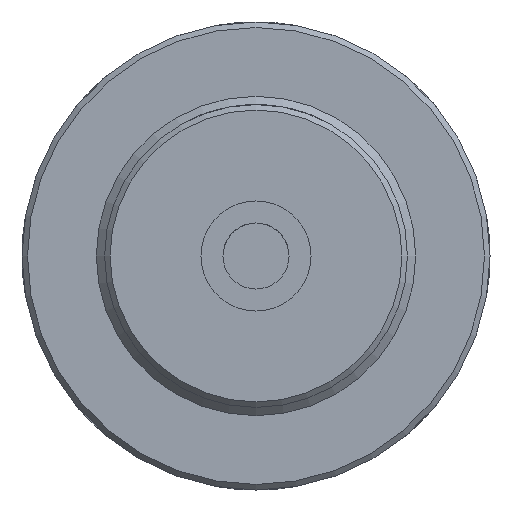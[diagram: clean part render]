
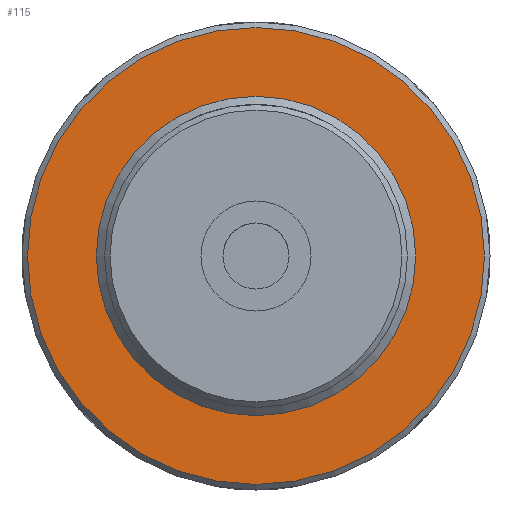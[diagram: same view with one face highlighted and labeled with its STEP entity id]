
A CAD part, left-side view. The second image highlights one B-rep face of the part: STEP entity #115.
In plain terms, the highlighted planar face has unit normal (-1, 0, 0).
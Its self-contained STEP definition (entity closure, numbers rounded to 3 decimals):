
#115 = ADVANCED_FACE( '', ( #247, #248 ), #249, .T. );
#247 = FACE_OUTER_BOUND( '', #382, .T. );
#248 = FACE_BOUND( '', #383, .T. );
#249 = PLANE( '', #384 );
#382 = EDGE_LOOP( '', ( #599 ) );
#383 = EDGE_LOOP( '', ( #600 ) );
#384 = AXIS2_PLACEMENT_3D( '', #601, #602, #603 );
#599 = ORIENTED_EDGE( '', *, *, #642, .T. );
#600 = ORIENTED_EDGE( '', *, *, #614, .F. );
#601 = CARTESIAN_POINT( '', ( 40.5, 0., 29. ) );
#602 = DIRECTION( '', ( -1., 0., 0. ) );
#603 = DIRECTION( '', ( 0., 0., 1. ) );
#614 = EDGE_CURVE( '', #669, #669, #670, .T. );
#642 = EDGE_CURVE( '', #711, #711, #712, .T. );
#669 = VERTEX_POINT( '', #885 );
#670 = CIRCLE( '', #886, 29. );
#711 = VERTEX_POINT( '', #1317 );
#712 = CIRCLE( '', #1318, 41.5 );
#885 = CARTESIAN_POINT( '', ( 40.5, 0., 29. ) );
#886 = AXIS2_PLACEMENT_3D( '', #1451, #1452, #1453 );
#1317 = CARTESIAN_POINT( '', ( 40.5, 0., 41.5 ) );
#1318 = AXIS2_PLACEMENT_3D( '', #1496, #1497, #1498 );
#1451 = CARTESIAN_POINT( '', ( 40.5, 0., 0. ) );
#1452 = DIRECTION( '', ( -1., 0., 0. ) );
#1453 = DIRECTION( '', ( 0., 0., 1. ) );
#1496 = CARTESIAN_POINT( '', ( 40.5, 0., 0. ) );
#1497 = DIRECTION( '', ( -1., 0., 0. ) );
#1498 = DIRECTION( '', ( 0., 0., 1. ) );
